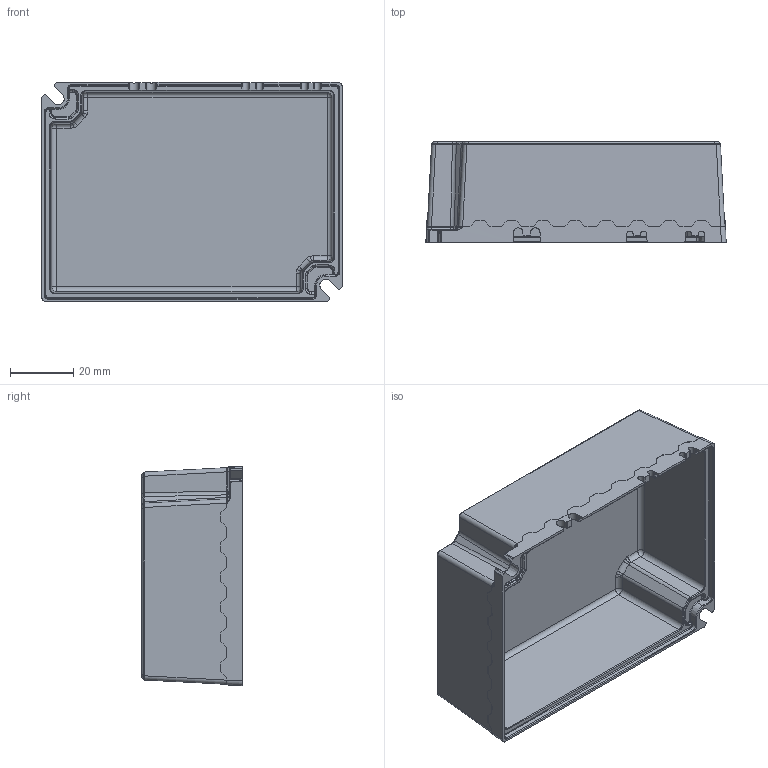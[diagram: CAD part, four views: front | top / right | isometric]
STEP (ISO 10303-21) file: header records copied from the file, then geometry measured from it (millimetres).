
FILE_DESCRIPTION((''),'2;1');
FILE_NAME('HCH-SAW40-012REVA','2014-04-02T',('Administrator'),(''),'PRO/ENGINEER BY PARAMETRIC TECHNOLOGY CORPORATION, 2007450','PRO/ENGINEER BY PARAMETRIC TECHNOLOGY CORPORATION, 2007450','');
FILE_SCHEMA(('CONFIG_CONTROL_DESIGN'));
Length unit declared in the file: inch
Products named in the file (1): HCH-SAW40-012REVA
Bounding box: 95.25 x 32 x 69.6 mm (x, y, z)
Volume: 29739.2 mm3; surface area: 31162.7 mm2
Topology: 1 solids, 1 shells, 772 faces, 1976 edges, 1202 vertices
Faces by surface type: plane 358, cylinder 232, bspline 148, sphere 24, torus 6, cone 4
Entity records: 28597 total; most frequent: CARTESIAN_POINT 11199, ORIENTED_EDGE 3896, DIRECTION 3133, EDGE_CURVE 1948, VECTOR 1217, LINE 1217, VERTEX_POINT 1202, AXIS2_PLACEMENT_3D 958
